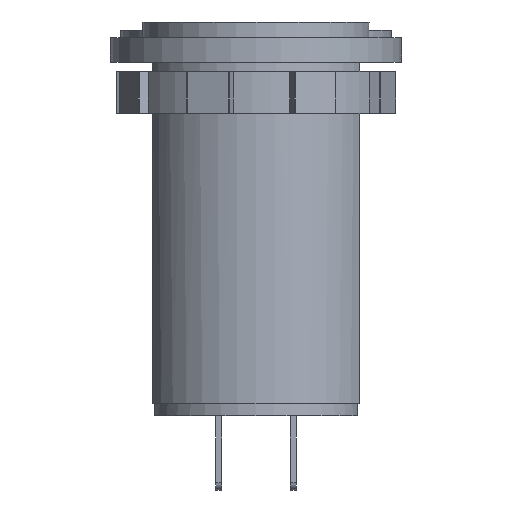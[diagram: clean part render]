
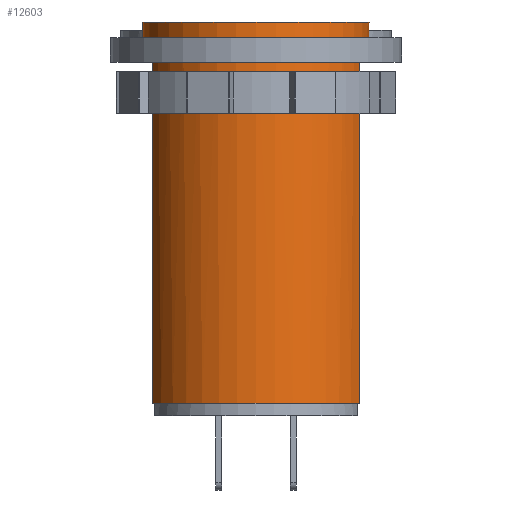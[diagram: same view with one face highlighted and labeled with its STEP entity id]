
A CAD part, front view. The second image highlights one B-rep face of the part: STEP entity #12603.
In plain terms, the highlighted cylindrical face has radius 14.25 mm (diameter 28.5 mm), a full revolution.
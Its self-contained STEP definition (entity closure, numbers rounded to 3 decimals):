
#700=FACE_OUTER_BOUND('',#1385,.T.);
#1385=EDGE_LOOP('',(#8696,#8697,#8698,#8699,#8700,#8701,#8702,#8703,#8704,
#8705,#8706,#8707));
#2106=LINE('',#18188,#3570);
#2119=LINE('',#18224,#3583);
#2128=LINE('',#18241,#3592);
#2129=LINE('',#18245,#3593);
#2130=LINE('',#18249,#3594);
#3570=VECTOR('',#14516,10.);
#3583=VECTOR('',#14547,10.);
#3592=VECTOR('',#14564,14.25);
#3593=VECTOR('',#14567,10.);
#3594=VECTOR('',#14570,10.);
#5026=CIRCLE('',#13387,14.25);
#5027=CIRCLE('',#13388,14.25);
#5028=CIRCLE('',#13393,14.25);
#5029=CIRCLE('',#13394,14.25);
#5030=CIRCLE('',#13395,14.25);
#5031=CIRCLE('',#13396,14.25);
#5455=VERTEX_POINT('',#18186);
#5456=VERTEX_POINT('',#18187);
#5467=VERTEX_POINT('',#18215);
#5468=VERTEX_POINT('',#18216);
#5470=VERTEX_POINT('',#18223);
#5474=VERTEX_POINT('',#18239);
#5475=VERTEX_POINT('',#18242);
#5476=VERTEX_POINT('',#18244);
#5477=VERTEX_POINT('',#18246);
#5478=VERTEX_POINT('',#18248);
#6729=EDGE_CURVE('',#5455,#5456,#2106,.T.);
#6742=EDGE_CURVE('',#5467,#5468,#5026,.T.);
#6745=EDGE_CURVE('',#5468,#5455,#5027,.T.);
#6746=EDGE_CURVE('',#5470,#5467,#2119,.T.);
#6755=EDGE_CURVE('',#5474,#5474,#5028,.T.);
#6756=EDGE_CURVE('',#5474,#5468,#2128,.T.);
#6757=EDGE_CURVE('',#5456,#5475,#5029,.T.);
#6758=EDGE_CURVE('',#5475,#5476,#2129,.T.);
#6759=EDGE_CURVE('',#5476,#5477,#5030,.T.);
#6760=EDGE_CURVE('',#5477,#5478,#2130,.T.);
#6761=EDGE_CURVE('',#5478,#5470,#5031,.T.);
#8696=ORIENTED_EDGE('',*,*,#6755,.F.);
#8697=ORIENTED_EDGE('',*,*,#6756,.T.);
#8698=ORIENTED_EDGE('',*,*,#6745,.T.);
#8699=ORIENTED_EDGE('',*,*,#6729,.T.);
#8700=ORIENTED_EDGE('',*,*,#6757,.T.);
#8701=ORIENTED_EDGE('',*,*,#6758,.T.);
#8702=ORIENTED_EDGE('',*,*,#6759,.T.);
#8703=ORIENTED_EDGE('',*,*,#6760,.T.);
#8704=ORIENTED_EDGE('',*,*,#6761,.T.);
#8705=ORIENTED_EDGE('',*,*,#6746,.T.);
#8706=ORIENTED_EDGE('',*,*,#6742,.T.);
#8707=ORIENTED_EDGE('',*,*,#6756,.F.);
#12461=CYLINDRICAL_SURFACE('',#13392,14.25);
#12603=ADVANCED_FACE('',(#700),#12461,.T.);
#13387=AXIS2_PLACEMENT_3D('',#18217,#14539,#14540);
#13388=AXIS2_PLACEMENT_3D('',#18221,#14543,#14544);
#13392=AXIS2_PLACEMENT_3D('',#18238,#14560,#14561);
#13393=AXIS2_PLACEMENT_3D('',#18240,#14562,#14563);
#13394=AXIS2_PLACEMENT_3D('',#18243,#14565,#14566);
#13395=AXIS2_PLACEMENT_3D('',#18247,#14568,#14569);
#13396=AXIS2_PLACEMENT_3D('',#18250,#14571,#14572);
#14516=DIRECTION('',(0.,0.,-1.));
#14539=DIRECTION('center_axis',(0.,0.,1.));
#14540=DIRECTION('ref_axis',(1.,0.,0.));
#14543=DIRECTION('center_axis',(0.,0.,1.));
#14544=DIRECTION('ref_axis',(1.,0.,0.));
#14547=DIRECTION('',(0.,0.,1.));
#14560=DIRECTION('center_axis',(0.,0.,1.));
#14561=DIRECTION('ref_axis',(1.,0.,0.));
#14562=DIRECTION('center_axis',(0.,0.,1.));
#14563=DIRECTION('ref_axis',(1.,0.,0.));
#14564=DIRECTION('',(0.,0.,-1.));
#14565=DIRECTION('center_axis',(0.,0.,1.));
#14566=DIRECTION('ref_axis',(1.,0.,0.));
#14567=DIRECTION('',(0.,0.,1.));
#14568=DIRECTION('center_axis',(0.,0.,1.));
#14569=DIRECTION('ref_axis',(1.,0.,0.));
#14570=DIRECTION('',(0.,0.,-1.));
#14571=DIRECTION('center_axis',(0.,0.,1.));
#14572=DIRECTION('ref_axis',(1.,0.,0.));
#18186=CARTESIAN_POINT('',(-13.038,-5.75,44.45));
#18187=CARTESIAN_POINT('',(-13.038,-5.75,1.6));
#18188=CARTESIAN_POINT('',(-13.038,-5.75,0.));
#18215=CARTESIAN_POINT('',(-13.038,5.75,44.45));
#18216=CARTESIAN_POINT('',(-14.25,0.,44.45));
#18217=CARTESIAN_POINT('Origin',(0.,0.,44.45));
#18221=CARTESIAN_POINT('Origin',(0.,0.,44.45));
#18223=CARTESIAN_POINT('',(-13.038,5.75,1.6));
#18224=CARTESIAN_POINT('',(-13.038,5.75,0.));
#18238=CARTESIAN_POINT('Origin',(0.,0.,0.));
#18239=CARTESIAN_POINT('',(-14.25,0.,49.5));
#18240=CARTESIAN_POINT('Origin',(0.,0.,49.5));
#18241=CARTESIAN_POINT('',(-14.25,0.,0.));
#18242=CARTESIAN_POINT('',(13.038,-5.75,1.6));
#18243=CARTESIAN_POINT('Origin',(0.,0.,1.6));
#18244=CARTESIAN_POINT('',(13.038,-5.75,44.45));
#18245=CARTESIAN_POINT('',(13.038,-5.75,0.));
#18246=CARTESIAN_POINT('',(13.038,5.75,44.45));
#18247=CARTESIAN_POINT('Origin',(0.,0.,44.45));
#18248=CARTESIAN_POINT('',(13.038,5.75,1.6));
#18249=CARTESIAN_POINT('',(13.038,5.75,0.));
#18250=CARTESIAN_POINT('Origin',(0.,0.,1.6));
